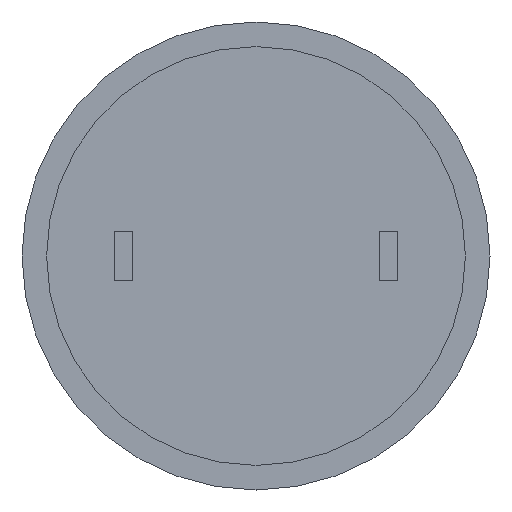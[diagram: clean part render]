
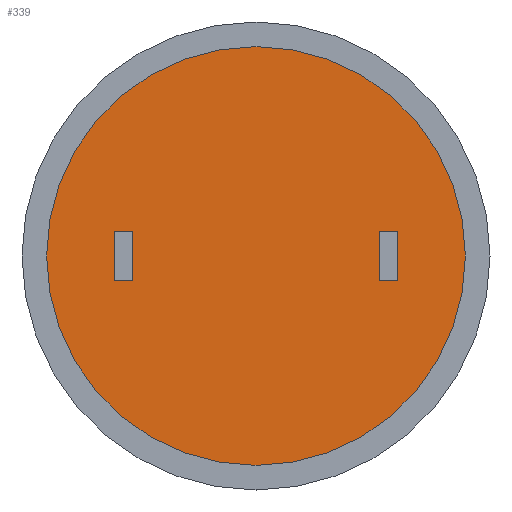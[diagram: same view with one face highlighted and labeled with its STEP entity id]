
A CAD part, front view. The second image highlights one B-rep face of the part: STEP entity #339.
In plain terms, the highlighted planar face has unit normal (0, -1, 0).
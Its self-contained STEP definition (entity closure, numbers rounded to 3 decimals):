
#14=FACE_BOUND('',#68,.T.);
#15=FACE_BOUND('',#69,.T.);
#31=PLANE('',#386);
#48=FACE_OUTER_BOUND('',#67,.T.);
#67=EDGE_LOOP('',(#281,#282));
#68=EDGE_LOOP('',(#283,#284,#285,#286));
#69=EDGE_LOOP('',(#287,#288,#289,#290));
#79=LINE('',#525,#107);
#83=LINE('',#533,#111);
#86=LINE('',#539,#114);
#89=LINE('',#544,#117);
#91=LINE('',#550,#119);
#95=LINE('',#558,#123);
#98=LINE('',#564,#126);
#101=LINE('',#569,#129);
#107=VECTOR('',#429,10.);
#111=VECTOR('',#435,10.);
#114=VECTOR('',#440,10.);
#117=VECTOR('',#445,10.);
#119=VECTOR('',#451,10.);
#123=VECTOR('',#457,10.);
#126=VECTOR('',#462,10.);
#129=VECTOR('',#467,10.);
#141=CIRCLE('',#387,8.5);
#142=CIRCLE('',#388,8.5);
#157=VERTEX_POINT('',#523);
#158=VERTEX_POINT('',#524);
#161=VERTEX_POINT('',#532);
#163=VERTEX_POINT('',#538);
#165=VERTEX_POINT('',#548);
#166=VERTEX_POINT('',#549);
#169=VERTEX_POINT('',#557);
#171=VERTEX_POINT('',#563);
#173=VERTEX_POINT('',#573);
#174=VERTEX_POINT('',#574);
#191=EDGE_CURVE('',#157,#158,#79,.T.);
#195=EDGE_CURVE('',#161,#157,#83,.T.);
#198=EDGE_CURVE('',#163,#161,#86,.T.);
#201=EDGE_CURVE('',#158,#163,#89,.T.);
#203=EDGE_CURVE('',#165,#166,#91,.T.);
#207=EDGE_CURVE('',#166,#169,#95,.T.);
#210=EDGE_CURVE('',#169,#171,#98,.T.);
#213=EDGE_CURVE('',#171,#165,#101,.T.);
#215=EDGE_CURVE('',#173,#174,#141,.T.);
#216=EDGE_CURVE('',#174,#173,#142,.T.);
#281=ORIENTED_EDGE('',*,*,#215,.F.);
#282=ORIENTED_EDGE('',*,*,#216,.F.);
#283=ORIENTED_EDGE('',*,*,#191,.T.);
#284=ORIENTED_EDGE('',*,*,#201,.T.);
#285=ORIENTED_EDGE('',*,*,#198,.T.);
#286=ORIENTED_EDGE('',*,*,#195,.T.);
#287=ORIENTED_EDGE('',*,*,#203,.T.);
#288=ORIENTED_EDGE('',*,*,#207,.T.);
#289=ORIENTED_EDGE('',*,*,#210,.T.);
#290=ORIENTED_EDGE('',*,*,#213,.T.);
#339=ADVANCED_FACE('',(#48,#14,#15),#31,.T.);
#386=AXIS2_PLACEMENT_3D('',#572,#471,#472);
#387=AXIS2_PLACEMENT_3D('',#575,#473,#474);
#388=AXIS2_PLACEMENT_3D('',#576,#475,#476);
#429=DIRECTION('',(1.,0.,0.));
#435=DIRECTION('',(0.,0.,1.));
#440=DIRECTION('',(-1.,0.,0.));
#445=DIRECTION('',(0.,0.,-1.));
#451=DIRECTION('',(1.,0.,0.));
#457=DIRECTION('',(0.,0.,-1.));
#462=DIRECTION('',(-1.,0.,0.));
#467=DIRECTION('',(0.,0.,1.));
#471=DIRECTION('center_axis',(0.,-1.,0.));
#472=DIRECTION('ref_axis',(0.,0.,-1.));
#473=DIRECTION('center_axis',(0.,1.,0.));
#474=DIRECTION('ref_axis',(1.,0.,0.));
#475=DIRECTION('center_axis',(0.,1.,0.));
#476=DIRECTION('ref_axis',(1.,0.,0.));
#523=CARTESIAN_POINT('',(-5.763,0.,1.014));
#524=CARTESIAN_POINT('',(-5.,0.,1.014));
#525=CARTESIAN_POINT('',(-7.131,0.,1.014));
#532=CARTESIAN_POINT('',(-5.763,0.,-1.014));
#533=CARTESIAN_POINT('',(-5.763,0.,-0.507));
#538=CARTESIAN_POINT('',(-5.,0.,-1.014));
#539=CARTESIAN_POINT('',(-6.75,0.,-1.014));
#544=CARTESIAN_POINT('',(-5.,0.,0.507));
#548=CARTESIAN_POINT('',(5.,0.,1.014));
#549=CARTESIAN_POINT('',(5.763,0.,1.014));
#550=CARTESIAN_POINT('',(-1.369,0.,1.014));
#557=CARTESIAN_POINT('',(5.763,0.,-1.014));
#558=CARTESIAN_POINT('',(5.763,0.,-0.507));
#563=CARTESIAN_POINT('',(5.,0.,-1.014));
#564=CARTESIAN_POINT('',(-1.75,0.,-1.014));
#569=CARTESIAN_POINT('',(5.,0.,0.507));
#572=CARTESIAN_POINT('Origin',(-8.5,0.,0.));
#573=CARTESIAN_POINT('',(-8.5,0.,0.));
#574=CARTESIAN_POINT('',(8.5,0.,0.));
#575=CARTESIAN_POINT('Origin',(0.,0.,0.));
#576=CARTESIAN_POINT('Origin',(0.,0.,0.));
